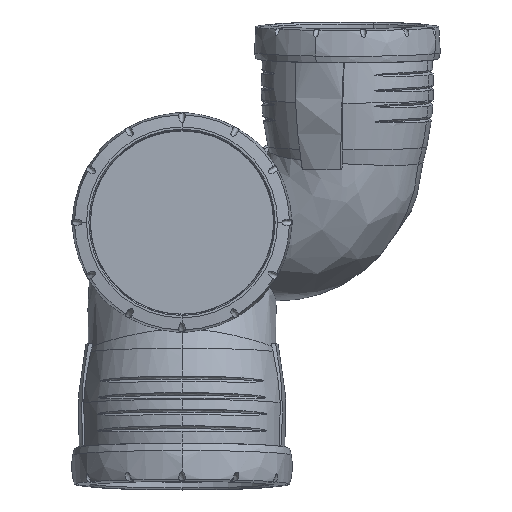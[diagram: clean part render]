
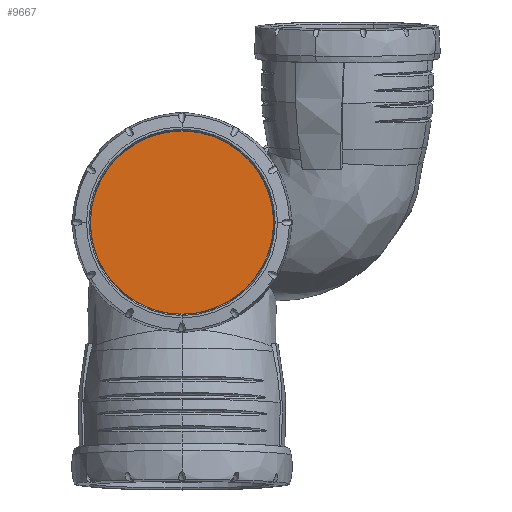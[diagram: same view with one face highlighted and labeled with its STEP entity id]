
A CAD part, top view. The second image highlights one B-rep face of the part: STEP entity #9667.
In plain terms, the highlighted planar face has unit normal (0, 0, 1).
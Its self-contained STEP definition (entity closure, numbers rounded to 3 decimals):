
#334=PLANE('',#10405);
#797=CIRCLE('',#10398,45.45);
#798=CIRCLE('',#10400,45.45);
#799=CIRCLE('',#10402,45.45);
#800=CIRCLE('',#10404,45.45);
#1427=FACE_OUTER_BOUND('',#1987,.T.);
#1987=EDGE_LOOP('',(#7424,#7425,#7426,#7427));
#3842=VERTEX_POINT('',#24515);
#3843=VERTEX_POINT('',#24517);
#3844=VERTEX_POINT('',#24521);
#3845=VERTEX_POINT('',#24525);
#5084=EDGE_CURVE('',#3842,#3843,#797,.T.);
#5086=EDGE_CURVE('',#3843,#3844,#798,.T.);
#5088=EDGE_CURVE('',#3844,#3845,#799,.T.);
#5090=EDGE_CURVE('',#3845,#3842,#800,.T.);
#7424=ORIENTED_EDGE('',*,*,#5088,.F.);
#7425=ORIENTED_EDGE('',*,*,#5086,.F.);
#7426=ORIENTED_EDGE('',*,*,#5084,.F.);
#7427=ORIENTED_EDGE('',*,*,#5090,.F.);
#9667=ADVANCED_FACE('',(#1427),#334,.T.);
#10398=AXIS2_PLACEMENT_3D('',#24518,#11867,#11868);
#10400=AXIS2_PLACEMENT_3D('',#24522,#11872,#11873);
#10402=AXIS2_PLACEMENT_3D('',#24526,#11877,#11878);
#10404=AXIS2_PLACEMENT_3D('',#24529,#11882,#11883);
#10405=AXIS2_PLACEMENT_3D('',#24530,#11884,#11885);
#11867=DIRECTION('center_axis',(0.,0.,
-1.));
#11868=DIRECTION('ref_axis',(0.559,-0.829,0.));
#11872=DIRECTION('center_axis',(0.,0.,
-1.));
#11873=DIRECTION('ref_axis',(-0.559,-0.829,0.));
#11877=DIRECTION('center_axis',(0.,0.,
-1.));
#11878=DIRECTION('ref_axis',(-0.558,0.83,0.));
#11882=DIRECTION('center_axis',(0.,0.,
-1.));
#11883=DIRECTION('ref_axis',(0.558,0.83,0.));
#11884=DIRECTION('center_axis',(0.,0.,
1.));
#11885=DIRECTION('ref_axis',(-0.72,-0.693,0.));
#24515=CARTESIAN_POINT('',(45.45,0.,179.95));
#24517=CARTESIAN_POINT('',(0.,-45.45,179.95));
#24518=CARTESIAN_POINT('Origin',(0.,0.,
179.95));
#24521=CARTESIAN_POINT('',(-45.45,0.,179.95));
#24522=CARTESIAN_POINT('Origin',(0.,0.,
179.95));
#24525=CARTESIAN_POINT('',(0.,45.45,179.95));
#24526=CARTESIAN_POINT('Origin',(0.,0.,
179.95));
#24529=CARTESIAN_POINT('Origin',(0.,0.,
179.95));
#24530=CARTESIAN_POINT('Origin',(1.26,65.863,179.95));
